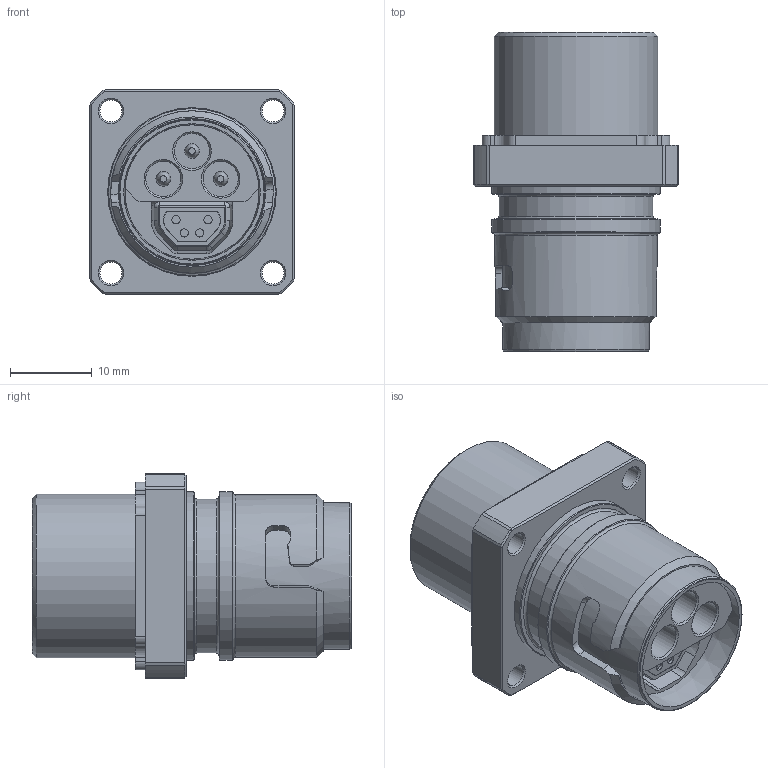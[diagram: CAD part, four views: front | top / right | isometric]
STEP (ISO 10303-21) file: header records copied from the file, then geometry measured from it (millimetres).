
FILE_DESCRIPTION(/* description */ (''),/* implementation_level */ '2;1');
FILE_NAME(/* name */ 'X:\0-inventor\0-3d-Teile\PC-Compo\solids\EtherCAT-P_Stecker_Buchsen\0-Ausgabe\B17 ENP und ECP_T0423\ENP_Flansche\Vierkantflansch kurz\2+PE\VK2_3pol_Pst_2_5mm_Step.stp',/* time_stamp */ '2019-05-06T17:09:21+02:00',/* author */ ('ChristianKreuzer'),/* organization */ ('Design-AG'),/* preprocessor_version */ 'ST-DEVELOPER v17.2',/* originating_system */ 'Autodesk Inventor 2019',/* authorisation */ '');
FILE_SCHEMA (('AUTOMOTIVE_DESIGN { 1 0 10303 214 3 1 1 }'));
Length unit declared in the file: millimetre
Products named in the file (1): VK2_3pol_Pst_2_5mm_Step
Bounding box: 25 x 39 x 25 mm (x, y, z)
Volume: 7296.3 mm3; surface area: 9185.8 mm2
Topology: 9 solids, 9 shells, 316 faces, 798 edges, 510 vertices
Faces by surface type: plane 155, cylinder 109, cone 41, bspline 7, torus 4
Full cylindrical faces by diameter (mm): 1 x4, 1.8 x3, 2.7 x4, 4.3 x3, 16.4 x1, 16.5 x1, 17.95 x1, 18.8 x1, 19.85 x1, 20 x1, 20.5 x1, 20.6 x2
Entity records: 10326 total; most frequent: CARTESIAN_POINT 2121, DIRECTION 1717, ORIENTED_EDGE 1592, EDGE_CURVE 796, AXIS2_PLACEMENT_3D 653, VERTEX_POINT 510, LINE 411, VECTOR 411
